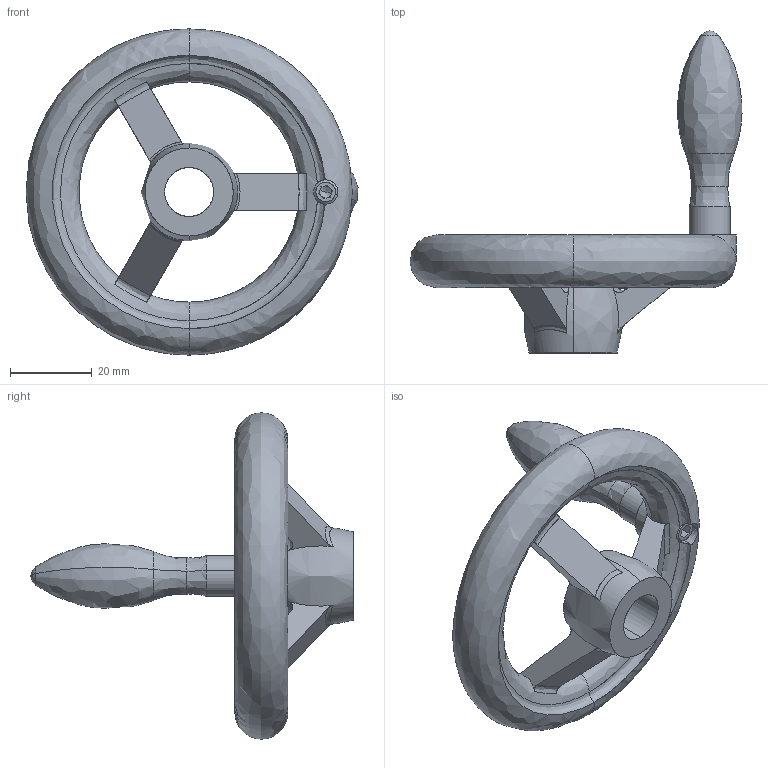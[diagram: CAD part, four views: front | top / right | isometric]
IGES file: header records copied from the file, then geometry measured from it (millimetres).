
Start section: SolidWorks IGES file using analytic representation for surfaces
Global section: file name: C:\Users\IanO\Desktop\Temp File\Process pending\77120_v2\77120_v2_20171108_IGES\77120.W0401.igs; native system: SolidWorks 2017; preprocessor: SolidWorks 2017; author: IanO; date: 171108.084640; units: millimetre
Bounding box: 81.42 x 79 x 80 mm (x, y, z)
Surface area: 14858.1 mm2 (no closed solid volume)
Topology: 0 solids, 0 shells, 123 faces, 1439 edges, 1430 vertices
Faces by surface type: bspline 65, revolution 58
